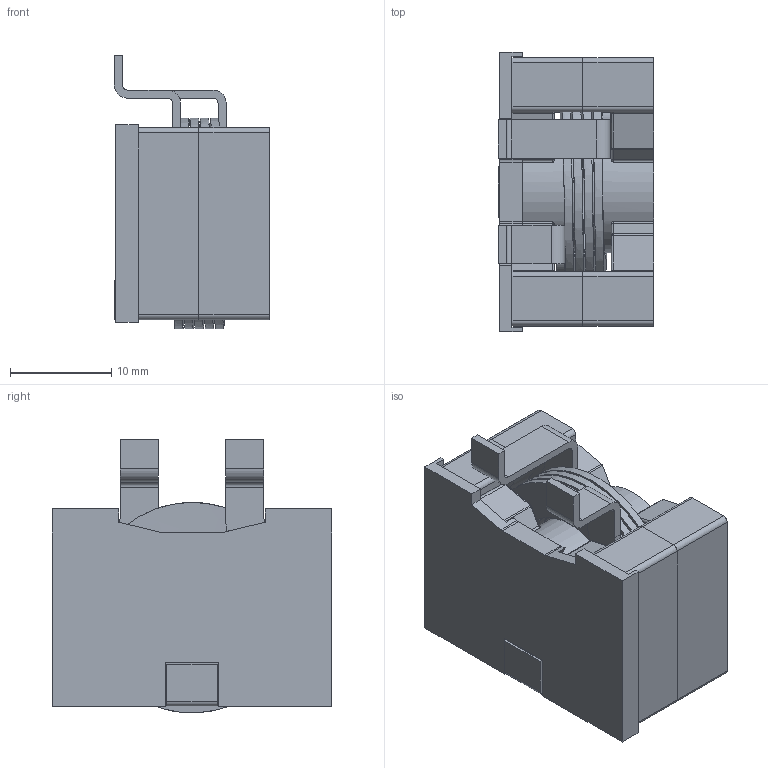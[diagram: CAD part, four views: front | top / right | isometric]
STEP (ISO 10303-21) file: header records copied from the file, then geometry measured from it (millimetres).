
FILE_DESCRIPTION((''),'2;1');
FILE_NAME('ASM0001_ASM','2025-09-26T',('SandyS'),(''),'CREO PARAMETRIC BY PTC INC, 2014190','CREO PARAMETRIC BY PTC INC, 2014190','');
FILE_SCHEMA(('CONFIG_CONTROL_DESIGN'));
Length unit declared in the file: millimetre
Products named in the file (6): BASE; PIN; PQ2614; COIL; CORE_PQ2614_GAP; ASM0001_ASM
Assembly tree (5 placements, depth 2):
  ASM0001_ASM
    BASE
    PIN
    PQ2614
    COIL
    CORE_PQ2614_GAP
Bounding box: 15.35 x 27.6 x 27.05 mm (x, y, z)
Volume: 6280.5 mm3; surface area: 7244.5 mm2
Topology: 5 solids, 5 shells, 258 faces, 668 edges, 420 vertices
Faces by surface type: plane 128, cylinder 98, torus 16, sphere 8, bspline 8
Entity records: 10299 total; most frequent: CARTESIAN_POINT 3771, DIRECTION 1378, ORIENTED_EDGE 1336, EDGE_CURVE 668, AXIS2_PLACEMENT_3D 481, VERTEX_POINT 420, VECTOR 416, LINE 416
